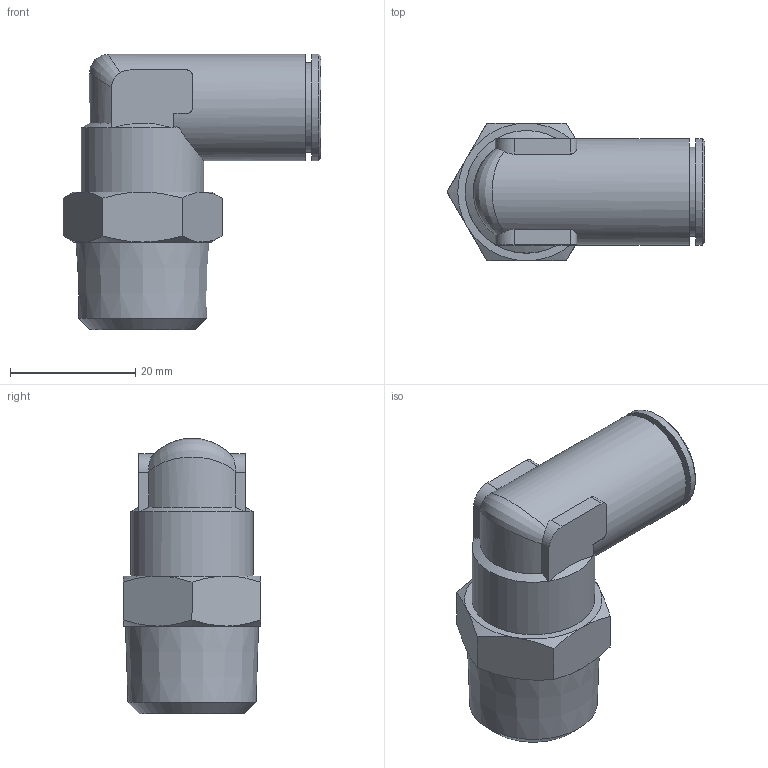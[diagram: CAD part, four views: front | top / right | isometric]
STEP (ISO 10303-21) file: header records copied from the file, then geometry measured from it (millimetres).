
FILE_DESCRIPTION(/* description */ (''),/* implementation_level */ '2;1');
FILE_NAME(/* name */ '202261-ES_STX022K_12_R12_20.06.16',/* time_stamp */ '2016-06-20T09:56:48+02:00',/* author */ (''),/* organization */ (''),/* preprocessor_version */ 'ST-DEVELOPER v16.5',/* originating_system */ 'HiCAD 2016 2101.0 Build 254',/* authorisation */ '');
FILE_SCHEMA (('AUTOMOTIVE_DESIGN { 1 0 10303 214 1 1 1 1 }'));
Length unit declared in the file: millimetre
Products named in the file (4): Root; 214640-1; R202210-ES; DR12
Assembly tree (3 placements, depth 2):
  Root
    214640-1
    R202210-ES
    DR12
Bounding box: 41.2 x 22 x 44 mm (x, y, z)
Volume: 9812.6 mm3; surface area: 8992.2 mm2
Topology: 3 solids, 3 shells, 89 faces, 197 edges, 120 vertices
Faces by surface type: plane 35, cone 30, cylinder 22, sphere 1, bspline 1
Full cylindrical faces by diameter (mm): 11 x1, 12.15 x1, 12.2 x1, 13 x1, 13.2 x1, 14.3 x1, 14.5 x2, 15.8 x2, 17 x4, 19.6 x1
Entity records: 5468 total; most frequent: CARTESIAN_POINT 1951, DIRECTION 432, PRESENTATION_STYLE_ASSIGNMENT 323, COLOUR_RGB 322, DRAUGHTING_PRE_DEFINED_CURVE_FONT 320, CURVE_STYLE 320, OVER_RIDING_STYLED_ITEM 320, ORIENTED_EDGE 320
